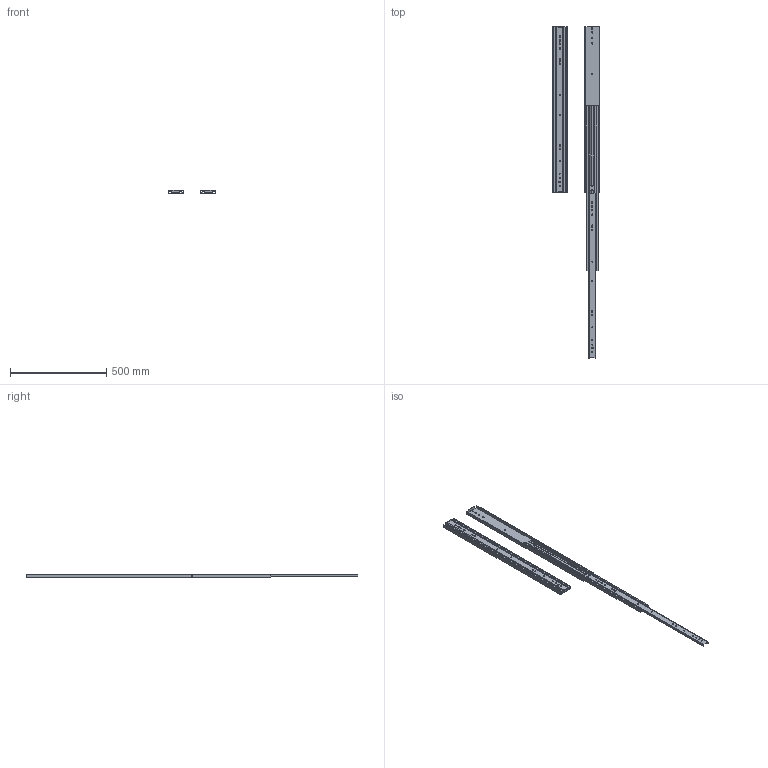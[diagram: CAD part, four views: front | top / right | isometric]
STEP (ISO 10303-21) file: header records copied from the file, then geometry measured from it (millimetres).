
FILE_DESCRIPTION((''),'2;1');
FILE_NAME('ASSEM1_1_2_3_4_5_6_7_8_9_10__13_ASM','2026-04-08T08:47:32',('T260078'),(''),'CREO PARAMETRIC BY PTC INC, 2025123','CREO PARAMETRIC BY PTC INC, 2025123','');
FILE_SCHEMA(('CONFIG_CONTROL_DESIGN','SHAPE_APPEARANCE_LAYERS_GROUPS'));
Length unit declared in the file: millimetre
Products named in the file (6): 76J01-34_X2_540B_X0_-M; 76J01-34_X2_540B_X0_-I; 76J01-34_X2_540B_X0_-O; 76J01-34_X2_540_X0__ASM; 76J01-34_X2_540B_X0_-_X2_5C5595_ASM; ASSEM1_1_2_3_4_5_6_7_8_9_10__13_ASM
Assembly tree (8 placements, depth 3):
  ASSEM1_1_2_3_4_5_6_7_8_9_10__13_ASM
    76J01-34_X2_540_X0__ASM
      76J01-34_X2_540B_X0_-M
      76J01-34_X2_540B_X0_-I
      76J01-34_X2_540B_X0_-O
    76J01-34_X2_540B_X0_-_X2_5C5595_ASM
      76J01-34_X2_540B_X0_-M
      76J01-34_X2_540B_X0_-I
      76J01-34_X2_540B_X0_-O
Bounding box: 245.44 x 1727.2 x 19.3 mm (x, y, z)
Volume: 1062923.3 mm3; surface area: 949335.9 mm2
Topology: 6 solids, 6 shells, 408 faces, 1306 edges, 898 vertices
Faces by surface type: cylinder 208, plane 200
Entity records: 8899 total; most frequent: CARTESIAN_POINT 1355, DIRECTION 1334, ORIENTED_EDGE 1306, EDGE_CURVE 653, AXIS2_PLACEMENT_3D 466, VERTEX_POINT 449, VECTOR 402, LINE 402
